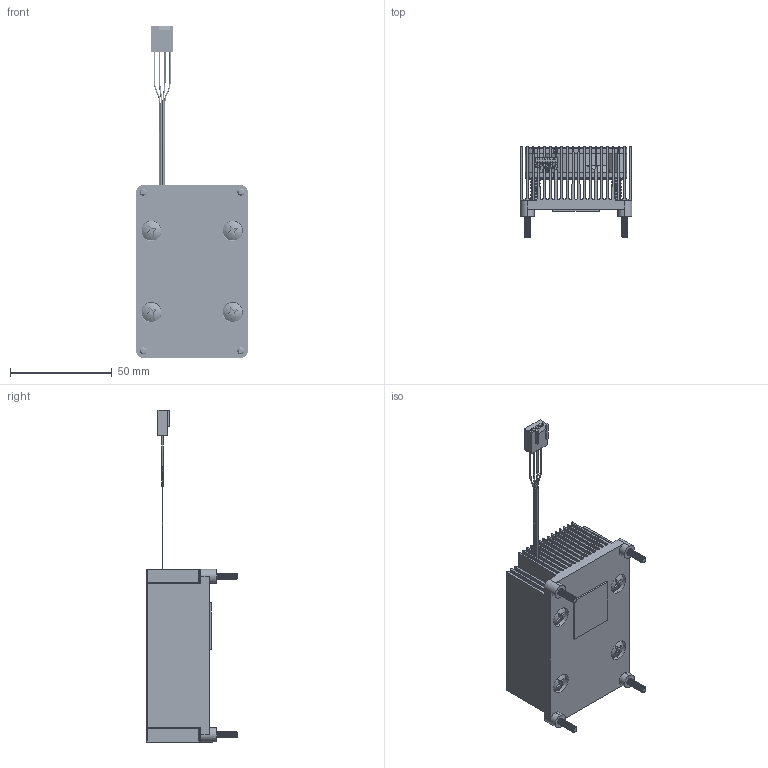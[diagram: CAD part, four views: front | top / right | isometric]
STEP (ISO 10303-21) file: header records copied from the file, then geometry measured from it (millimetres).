
FILE_DESCRIPTION (( 'STEP AP214' ), '1' );
FILE_NAME ('TDX004 - 23-Jul-2025.STEP', '2025-07-23T09:29:28', ( '' ), ( '' ), 'SwSTEP 2.0', 'SolidWorks 2025', '' );
FILE_SCHEMA (( 'AUTOMOTIVE_DESIGN' ));
Length unit declared in the file: millimetre
Products named in the file (8): 97503A155_97503A155; CFM-5015CF-160-374-22; TDX003; PA0196-01; TDX005; 91698A743; 470541000; TDX004 - 23-Jul-2025
Assembly tree (13 placements, depth 3):
  TDX004 - 23-Jul-2025
    TDX003
    TDX005
      CFM-5015CF-160-374-22
      470541000
    91698A743  x4
    PA0196-01
    97503A155_97503A155  x4
Bounding box: 55 x 44.85 x 163.2 mm (x, y, z)
Volume: 63029.2 mm3; surface area: 86212.2 mm2
Topology: 17 solids, 18 shells, 1839 faces, 5140 edges, 3336 vertices
Faces by surface type: plane 744, cylinder 695, bspline 159, cone 149, torus 83, sphere 9
Entity records: 64873 total; most frequent: CARTESIAN_POINT 30928, ORIENTED_EDGE 7566, DIRECTION 6493, EDGE_CURVE 3783, VERTEX_POINT 2454, AXIS2_PLACEMENT_3D 2203, LINE 2087, VECTOR 2087
